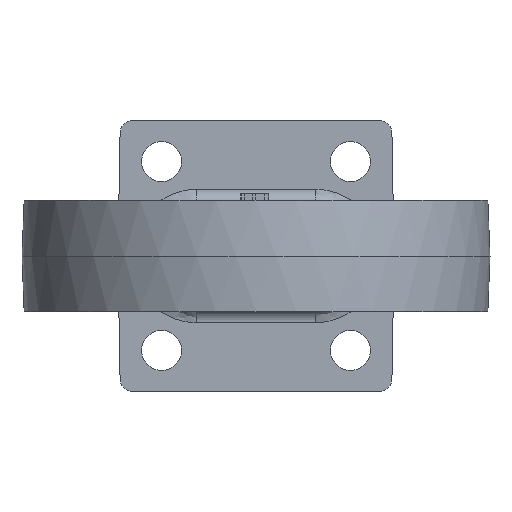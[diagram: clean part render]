
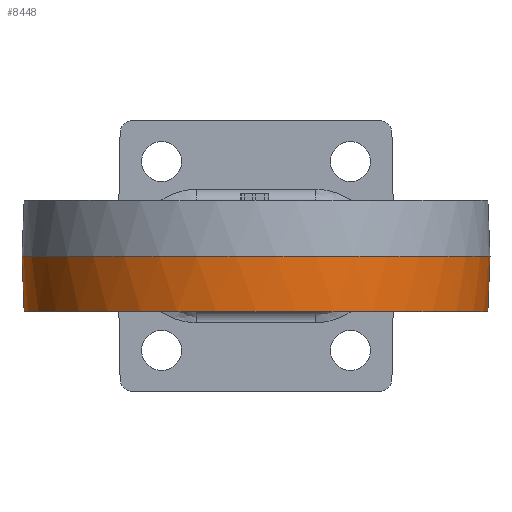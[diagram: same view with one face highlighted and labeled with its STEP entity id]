
A CAD part, front view. The second image highlights one B-rep face of the part: STEP entity #8448.
In plain terms, the highlighted conical face has half-angle 2.5 degrees and reference radius 52 mm.
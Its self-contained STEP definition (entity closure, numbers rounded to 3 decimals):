
#5716=CARTESIAN_POINT('',(25.201,46.016,-4.349));
#5717=VERTEX_POINT('',#5716);
#5735=CARTESIAN_POINT('',(25.216,46.225,0.));
#5736=VERTEX_POINT('',#5735);
#5750=CARTESIAN_POINT('',(25.216,46.225,0.));
#5751=CARTESIAN_POINT('',(25.211,46.155,-1.45));
#5752=CARTESIAN_POINT('',(25.206,46.086,-2.899));
#5753=CARTESIAN_POINT('',(25.201,46.016,-4.349));
#5754=B_SPLINE_CURVE_WITH_KNOTS('',3,(#5750,#5751,#5752,#5753),.UNSPECIFIED.,.F.,.U.,(4,4),(-2.459,-2.024),.UNSPECIFIED.);
#5755=EDGE_CURVE('',#5736,#5717,#5754,.T.);
#5789=CARTESIAN_POINT('',(-25.201,46.016,-4.349));
#5790=VERTEX_POINT('',#5789);
#5809=CARTESIAN_POINT('',(-25.216,46.225,0.));
#5810=VERTEX_POINT('',#5809);
#5811=CARTESIAN_POINT('',(-25.201,46.016,-4.349));
#5812=CARTESIAN_POINT('',(-25.206,46.086,-2.899));
#5813=CARTESIAN_POINT('',(-25.211,46.155,-1.45));
#5814=CARTESIAN_POINT('',(-25.216,46.225,0.));
#5815=B_SPLINE_CURVE_WITH_KNOTS('',3,(#5811,#5812,#5813,#5814),.UNSPECIFIED.,.F.,.U.,(4,4),(-1.438,-1.002),.UNSPECIFIED.);
#5816=EDGE_CURVE('',#5790,#5810,#5815,.T.);
#8374=CARTESIAN_POINT('',(18.235,48.814,-12.5));
#8375=VERTEX_POINT('',#8374);
#8391=CARTESIAN_POINT('',(25.201,46.016,-4.349));
#8392=CARTESIAN_POINT('',(25.198,46.017,-4.353));
#8393=CARTESIAN_POINT('',(25.196,46.019,-4.357));
#8394=CARTESIAN_POINT('',(25.193,46.02,-4.362));
#8395=CARTESIAN_POINT('',(24.718,46.243,-5.098));
#8396=CARTESIAN_POINT('',(23.748,46.683,-6.572));
#8397=CARTESIAN_POINT('',(22.183,47.346,-8.703));
#8398=CARTESIAN_POINT('',(20.459,48.025,-10.662));
#8399=CARTESIAN_POINT('',(19.093,48.521,-11.872));
#8400=CARTESIAN_POINT('',(18.318,48.786,-12.441));
#8401=CARTESIAN_POINT('',(18.236,48.814,-12.5));
#8402=B_SPLINE_CURVE_WITH_KNOTS('',3,(#8391,#8392,#8393,#8394,#8395,#8396,#8397,#8398,#8399,#8400,#8401),.UNSPECIFIED.,.F.,.U.,(4,3,1,1,1,1,4),(-1.937,-1.936,-1.659,-1.383,-1.106,-0.83,-0.797),.UNSPECIFIED.);
#8403=EDGE_CURVE('',#5717,#8375,#8402,.T.);
#8408=CARTESIAN_POINT('',(0.0,0.0,-15.0));
#8409=DIRECTION('',(0.0,0.0,1.0));
#8410=DIRECTION('',(-1.0,0.0,0.0));
#8411=AXIS2_PLACEMENT_3D('',#8408,#8409,#8410);
#8412=CONICAL_SURFACE('',#8411,52.0,2.5);
#8413=CARTESIAN_POINT('',(0.0,0.0,0.0));
#8414=DIRECTION('',(0.0,0.0,-1.0));
#8415=DIRECTION('',(-1.0,0.0,0.0));
#8416=AXIS2_PLACEMENT_3D('',#8413,#8414,#8415);
#8417=CIRCLE('',#8416,52.655);
#8418=EDGE_CURVE('',#5736,#5810,#8417,.T.);
#8419=ORIENTED_EDGE('',*,*,#8418,.T.);
#8420=ORIENTED_EDGE('',*,*,#5816,.F.);
#8421=CARTESIAN_POINT('',(-18.235,48.814,-12.5));
#8422=VERTEX_POINT('',#8421);
#8423=CARTESIAN_POINT('',(-18.235,48.814,-12.5));
#8424=CARTESIAN_POINT('',(-18.318,48.786,-12.441));
#8425=CARTESIAN_POINT('',(-19.093,48.521,-11.872));
#8426=CARTESIAN_POINT('',(-20.458,48.026,-10.662));
#8427=CARTESIAN_POINT('',(-22.183,47.346,-8.703));
#8428=CARTESIAN_POINT('',(-23.748,46.683,-6.572));
#8429=CARTESIAN_POINT('',(-24.718,46.243,-5.098));
#8430=CARTESIAN_POINT('',(-25.193,46.02,-4.362));
#8431=CARTESIAN_POINT('',(-25.196,46.019,-4.357));
#8432=CARTESIAN_POINT('',(-25.198,46.017,-4.353));
#8433=CARTESIAN_POINT('',(-25.201,46.016,-4.349));
#8434=B_SPLINE_CURVE_WITH_KNOTS('',3,(#8423,#8424,#8425,#8426,#8427,#8428,#8429,#8430,#8431,#8432,#8433),.UNSPECIFIED.,.F.,.U.,(4,1,1,1,1,3,4),(-1.139,-1.106,-0.83,-0.553,-0.277,0.0,0.002),.UNSPECIFIED.);
#8435=EDGE_CURVE('',#8422,#5790,#8434,.T.);
#8436=ORIENTED_EDGE('',*,*,#8435,.F.);
#8437=CARTESIAN_POINT('',(0.0,0.0,-12.5));
#8438=DIRECTION('',(0.0,0.0,1.0));
#8439=DIRECTION('',(-1.0,0.0,0.0));
#8440=AXIS2_PLACEMENT_3D('',#8437,#8438,#8439);
#8441=CIRCLE('',#8440,52.109);
#8442=EDGE_CURVE('',#8422,#8375,#8441,.T.);
#8443=ORIENTED_EDGE('',*,*,#8442,.T.);
#8444=ORIENTED_EDGE('',*,*,#8403,.F.);
#8445=ORIENTED_EDGE('',*,*,#5755,.F.);
#8446=EDGE_LOOP('',(#8419,#8420,#8436,#8443,#8444,#8445));
#8447=FACE_OUTER_BOUND('',#8446,.T.);
#8448=ADVANCED_FACE('',(#8447),#8412,.T.);
